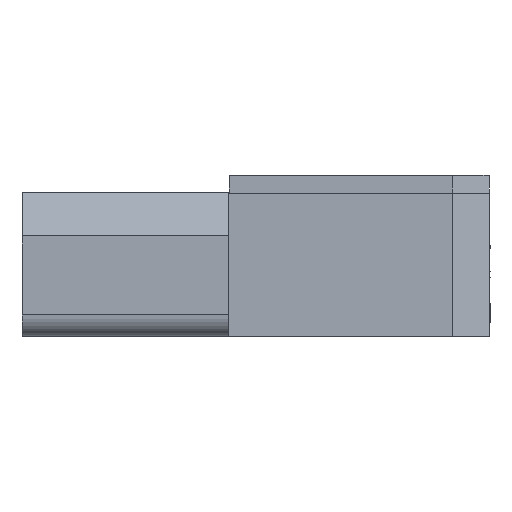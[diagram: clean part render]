
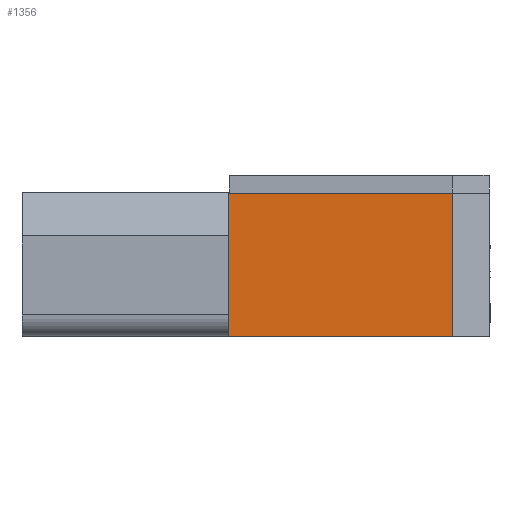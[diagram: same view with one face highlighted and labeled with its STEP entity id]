
A CAD part, front view. The second image highlights one B-rep face of the part: STEP entity #1356.
In plain terms, the highlighted planar face has unit normal (0, -1, 0).
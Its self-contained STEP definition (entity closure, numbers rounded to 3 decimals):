
#1356=ADVANCED_FACE('',(#3149),#3150,.F.);
#3149=FACE_OUTER_BOUND('',#5653,.T.);
#3150=PLANE('',#5654);
#5653=EDGE_LOOP('',(#9556,#9557,#9558,#9559));
#5654=AXIS2_PLACEMENT_3D('',#9560,#9561,#9562);
#9556=ORIENTED_EDGE('',*,*,#14951,.T.);
#9557=ORIENTED_EDGE('',*,*,#15344,.T.);
#9558=ORIENTED_EDGE('',*,*,#15345,.F.);
#9559=ORIENTED_EDGE('',*,*,#15346,.F.);
#9560=CARTESIAN_POINT('',(0.0,0.0,0.0));
#9561=DIRECTION('',(0.0,1.0,0.0));
#9562=DIRECTION('',(1.0,-0.0,0.0));
#14951=EDGE_CURVE('',#17899,#17897,#17900,.T.);
#15344=EDGE_CURVE('',#17897,#18467,#18468,.T.);
#15345=EDGE_CURVE('',#18469,#18467,#18470,.T.);
#15346=EDGE_CURVE('',#17899,#18469,#18471,.T.);
#17897=VERTEX_POINT('',#22310);
#17899=VERTEX_POINT('',#22313);
#17900=LINE('',#22314,#22315);
#18467=VERTEX_POINT('',#23263);
#18468=LINE('',#23264,#23265);
#18469=VERTEX_POINT('',#23266);
#18470=LINE('',#23267,#23268);
#18471=LINE('',#23269,#23270);
#22310=CARTESIAN_POINT('',(62.598,0.,40.0));
#22313=CARTESIAN_POINT('',(62.598,0.0,0.0));
#22314=CARTESIAN_POINT('',(62.598,0.0,0.0));
#22315=VECTOR('',#27235,1.0);
#23263=CARTESIAN_POINT('',(0.0,0.,40.0));
#23264=CARTESIAN_POINT('',(0.0,0.0,40.0));
#23265=VECTOR('',#27447,1.0);
#23266=CARTESIAN_POINT('',(0.0,0.0,0.0));
#23267=CARTESIAN_POINT('',(0.0,0.0,0.0));
#23268=VECTOR('',#27448,1.0);
#23269=CARTESIAN_POINT('',(0.0,0.0,0.0));
#23270=VECTOR('',#27449,1.0);
#27235=DIRECTION('',(0.0,0.0,1.0));
#27447=DIRECTION('',(-1.0,0.0,0.0));
#27448=DIRECTION('',(0.0,0.0,1.0));
#27449=DIRECTION('',(-1.0,0.0,0.0));
